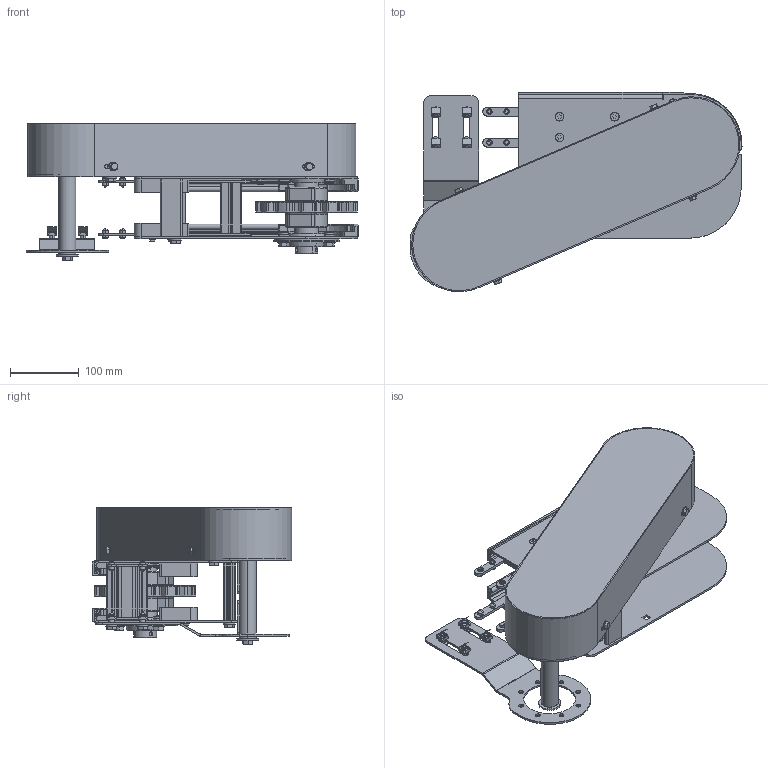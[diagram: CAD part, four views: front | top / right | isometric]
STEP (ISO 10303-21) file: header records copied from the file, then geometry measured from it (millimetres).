
FILE_DESCRIPTION (( 'STEP AP203' ), '1' );
FILE_NAME ('2000.325.363.STEP', '2020-11-20T09:09:22', ( 'Localadmin' ), ( 'Microsoft' ), 'SwSTEP 2.0', 'SolidWorks 2018', '' );
FILE_SCHEMA (( 'CONFIG_CONTROL_DESIGN' ));
Length unit declared in the file: millimetre
Products named in the file (41): 2000.001.301-1; Circlip DIN 471 - 25 x 1.2_Circlip DIN 471 - 25 x 1.2; 2000.325.304; VITI TE UNI 5739 INOX_M8x20 UNI 5739 INOX; SBPF205; 2000.325.105-1; 2000.001.306; 2000.325.363; 2000.325.001_Default<Lavorato>; RONDELLE UNI 6592 INOX_4.3x9 UNI 6592 INOX; RUOTE DI TRAINO NS880_NS880T12R25; 356.124.002; 2000.001.308; 2000.001.304; VITI TE UNI 5739 INOX_M4x20 UNI 5739 INOX; 25T10-970; 2000.001.912; 2000.325.003; 2000.001.003-2; RONDELLE FASCIA LARGA UNI 6593 INOX_8.4x32 UNI 6593 INOX; RONDELLE UNI 6592 INOX_8.4x18 UNI 6592 INOX; CHIAVETTE_A 8x7x30 UNI 6604-69; 2000.001.004-2; GRANI A PUNTA CONICA UNI 5927 INOX_M8x14 UNI 5927 INOX; VITI TE UNI 5739 INOX_M8x16 UNI 5739 INOX; CHIAVETTE_A 8x7x50 UNI 6604-69; 2000.001.001; 084.302.000 DADI ALUSIC 13x13-1_084.302.008; 2000.325.104-1; DIN EN ISO 10511 - M8 - N_DIN EN ISO 10511 - M8 - N; PROFILO POLIZENE_209<A macchina>; 2000.001.002; RONDELLE UNI 6592 INOX_6.4x12.5 UNI 6592 INOX; 2000.001.303; VITI TSEI UNI 5933 INOX_0420UNI5933A2; 61804; 2000.001.006-1; VITI TE UNI 5739 INOX_M6x10 UNI 5739 INOX; 2000.325.305; VITI TSEI UNI 5933 INOX_0620UNI5933A2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
Assembly tree (123 placements, depth 2):
  2000.325.363
    2000.325.104-1
    2000.001.303
    2000.325.305
    2000.325.304
    2000.325.001_Default<Lavorato>  x2
    2000.001.304  x2
    2000.001.003-2
    2000.001.004-2
    2000.001.001  x2
    2000.001.002  x2
    2000.001.006-1  x2
    2000.001.301-1
    2000.001.306
    2000.001.308
    2000.325.003  x2
    2000.325.105-1
    356.124.002
    2000.001.912
    CHIAVETTE_A 8x7x30 UNI 6604-69  x2
    CHIAVETTE_A 8x7x50 UNI 6604-69  x3
    PROFILO POLIZENE_209<A macchina>  x2
    61804  x2
    Circlip DIN 471 - 20 x 1.2_Circlip DIN 471 - 20 x 1.2
    SBPF205  x2
    RUOTE DI TRAINO NS880_NS880T12R25
    25T10-970
    RONDELLE UNI 6592 INOX_8.4x18 UNI 6592 INOX  x14
    VITI TE UNI 5739 INOX_M8x16 UNI 5739 INOX  x15
    DIN EN ISO 10511 - M8 - N_DIN EN ISO 10511 - M8 - N  x7
    VITI TSEI UNI 5933 INOX_0420UNI5933A2  x6
    VITI TSEI UNI 5933 INOX_0620UNI5933A2  x8
    VITI TE UNI 5739 INOX_M8x20 UNI 5739 INOX  x2
    RONDELLE UNI 6592 INOX_4.3x9 UNI 6592 INOX  x4
    VITI TE UNI 5739 INOX_M4x20 UNI 5739 INOX  x4
    RONDELLE FASCIA LARGA UNI 6593 INOX_8.4x32 UNI 6593 INOX  x3
    GRANI A PUNTA CONICA UNI 5927 INOX_M8x14 UNI 5927 INOX  x8
    084.302.000 DADI ALUSIC 13x13-1_084.302.008  x4
    RONDELLE UNI 6592 INOX_6.4x12.5 UNI 6592 INOX  x4
    VITI TE UNI 5739 INOX_M6x10 UNI 5739 INOX  x4
    Circlip DIN 471 - 25 x 1.2_Circlip DIN 471 - 25 x 1.2  x2
Bounding box: 481.93 x 289.55 x 197.83 mm (x, y, z)
Volume: 2285678.6 mm3; surface area: 1360408.7 mm2
Topology: 126 solids, 132 shells, 3761 faces, 9395 edges, 5984 vertices
Faces by surface type: plane 1771, cylinder 1304, cone 456, torus 214, bspline 16
Entity records: 73629 total; most frequent: CARTESIAN_POINT 12728, DIRECTION 11830, ORIENTED_EDGE 11068, EDGE_CURVE 5536, AXIS2_PLACEMENT_3D 4204, VERTEX_POINT 3558, VECTOR 3422, LINE 3422
